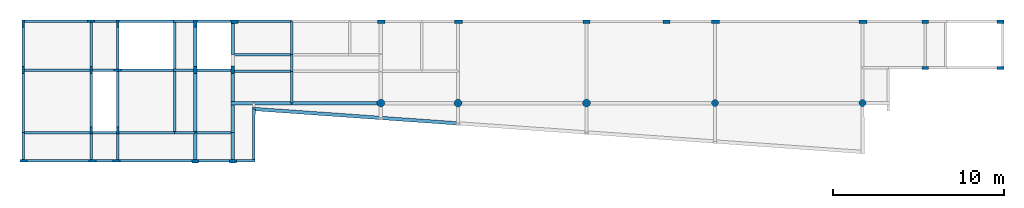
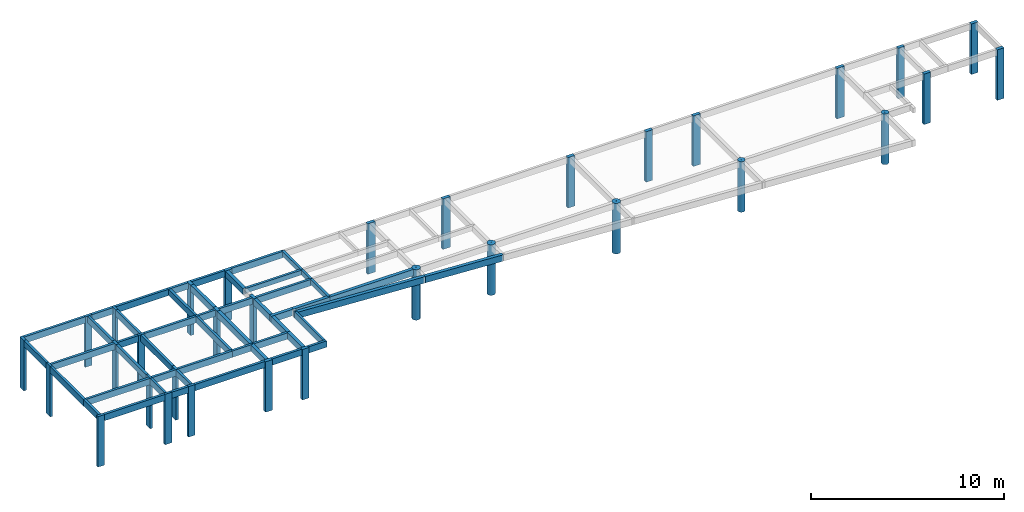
# One storey, part 1 of 3: 50 beams, 32 columns.
"""IFC2X3 building model written with IfcOpenShell, lengths in centimetres."""

from ifc_helpers import new_model, si_unit, derived_unit, frame, origin, origin_with_axes, origin_2d_with_axis, place, context, project, spatial, rectangle, hollow_circle, extrude, clip, halfspace, material, element, save


model = new_model("IFC2X3")

# Units and contexts
model_context = context("Model", 3, precision=1e-05, world=origin_with_axes(), identifier="Body")
ifc_project = project(units=[si_unit("LENGTHUNIT", "METRE", prefix="CENTI"), si_unit("VOLUMEUNIT", "CUBIC_METRE"), si_unit("AREAUNIT", "SQUARE_METRE"), si_unit("POWERUNIT", "WATT"), si_unit("LUMINOUSFLUXUNIT", "LUMEN"), si_unit("ELECTRICCURRENTUNIT", "AMPERE"), si_unit("PRESSUREUNIT", "PASCAL", prefix="KILO"), si_unit("MASSUNIT", "GRAM", prefix="KILO"), si_unit("PLANEANGLEUNIT", "RADIAN"), derived_unit("VOLUMETRICFLOWRATEUNIT", [(si_unit("LENGTHUNIT", "METRE"), 3), (si_unit("TIMEUNIT", "SECOND"), -1)])], contexts=[model_context])

# Site, building, storey
site_placement = place(None, origin_with_axes())
site = spatial("IfcSite", under=ifc_project, at=site_placement)
building_placement = place(site_placement, origin())
building = spatial("IfcBuilding", under=site, at=building_placement)
placement_1 = place(building_placement, origin_with_axes())
placement_2 = place(placement_1, frame((0.0, 0.0, 80.0), z_axis=(0.0, 0.0, 1.0), x_axis=(1.0, 0.0, 0.0)))
placement_3 = place(placement_2, frame((0.0, 0.0, 320.0), z_axis=(0.0, 0.0, 1.0), x_axis=(1.0, 0.0, 0.0)))
storey_placement = place(placement_3, frame((0.0, 0.0, 320.0), z_axis=(0.0, 0.0, 1.0), x_axis=(1.0, 0.0, 0.0)))
storey = spatial("IfcBuildingStorey", under=building, at=storey_placement, Name="04. Cobertura", CompositionType="ELEMENT", Elevation=720.0)

# Columns
ifc_material = material(Name="Concreto")
for number, where, z_axis, x_axis, name in (
    (1, (1838.54, -284.11, 0.0), (0.0, 0.0, 1.0), (1.0, 0.0, 0.0), "P10"),
    (2, (2305.54, -284.11, 0.0), (0.0, 0.0, 1.0), (1.0, 0.0, 0.0), "P11"),
):
    element("IfcColumn", number, at=place(storey_placement, frame(where, z_axis=z_axis, x_axis=x_axis)), inside=storey, material=ifc_material, Name=name, context=model_context, shape_type="SolidModel", body=[
        extrude(rectangle(XDim=20.0, YDim=40.0, at=origin_2d_with_axis()), frame((0.0, 0.0, 0.0), z_axis=(0.0, 0.0, 1.0), x_axis=(0.0, -1.0, 0.0)), (0.0, 0.0, -1.0), 320.0),
    ])
for number, where, z_axis, x_axis, name in (
    (3, (2591.04, -284.11, 0.0), (0.0, 0.0, 1.0), (1.0, 0.0, 0.0), "P12"),
    (4, (3452.04, -284.11, 0.0), (0.0, 0.0, 1.0), (1.0, 0.0, 0.0), "P13"),
):
    element("IfcColumn", number, at=place(storey_placement, frame(where, z_axis=z_axis, x_axis=x_axis)), inside=storey, material=ifc_material, Name=name, context=model_context, shape_type="SolidModel", body=[
        extrude(rectangle(XDim=20.0, YDim=45.0, at=origin_2d_with_axis()), frame((0.0, 0.0, 0.0), z_axis=(0.0, 0.0, 1.0), x_axis=(0.0, -1.0, 0.0)), (0.0, 0.0, -1.0), 320.0),
    ])
for number, where, z_axis, x_axis, name in (
    (5, (3816.04, -284.11, 0.0), (0.0, 0.0, 1.0), (1.0, 0.0, 0.0), "P14"),
    (6, (4255.54, -284.11, 0.0), (0.0, 0.0, 1.0), (1.0, 0.0, 0.0), "P15"),
):
    element("IfcColumn", number, at=place(storey_placement, frame(where, z_axis=z_axis, x_axis=x_axis)), inside=storey, material=ifc_material, Name=name, context=model_context, shape_type="SolidModel", body=[
        extrude(rectangle(XDim=20.0, YDim=40.0, at=origin_2d_with_axis()), frame((0.0, 0.0, 0.0), z_axis=(0.0, 0.0, 1.0), x_axis=(0.0, -1.0, 0.0)), (0.0, 0.0, -1.0), 320.0),
    ])
column_1_placement = place(storey_placement, frame((-1447.96, -566.61, 0.0), z_axis=(0.0, 0.0, 1.0), x_axis=(1.0, 0.0, 0.0)))
element("IfcColumn", 7, at=column_1_placement, inside=storey, material=ifc_material, Name="P17", context=model_context, shape_type="SolidModel", body=[
    extrude(rectangle(XDim=15.0, YDim=40.0, at=origin_2d_with_axis()), origin_with_axes(), (0.0, 0.0, -1.0), 320.0),
])
column_2_placement = place(storey_placement, frame((-1052.96, -566.61, 0.0), z_axis=(0.0, 0.0, 1.0), x_axis=(1.0, 0.0, 0.0)))
element("IfcColumn", 8, at=column_2_placement, inside=storey, material=ifc_material, Name="P18", context=model_context, shape_type="SolidModel", body=[
    extrude(rectangle(XDim=15.0, YDim=40.0, at=origin_2d_with_axis()), frame((0.0, 0.0, 0.0), z_axis=(0.0, 0.0, 1.0), x_axis=(-1.0, 0.0, 0.0)), (0.0, 0.0, -1.0), 320.0),
])
column_3_placement = place(storey_placement, frame((-897.96, -566.61, 0.0), z_axis=(0.0, 0.0, 1.0), x_axis=(1.0, 0.0, 0.0)))
element("IfcColumn", 9, at=column_3_placement, inside=storey, material=ifc_material, Name="P19", context=model_context, shape_type="SolidModel", body=[
    extrude(rectangle(XDim=15.0, YDim=40.0, at=origin_2d_with_axis()), frame((0.0, 0.0, 0.0), z_axis=(0.0, 0.0, 1.0), x_axis=(0.0, -1.0, 0.0)), (0.0, 0.0, -1.0), 320.0),
])
column_4_placement = place(storey_placement, frame((-1447.96, -294.11, 0.0), z_axis=(0.0, 0.0, 1.0), x_axis=(1.0, 0.0, 0.0)))
element("IfcColumn", 10, at=column_4_placement, inside=storey, material=ifc_material, Name="P2", context=model_context, shape_type="SolidModel", body=[
    extrude(rectangle(XDim=15.0, YDim=40.0, at=origin_2d_with_axis()), origin_with_axes(), (0.0, 0.0, -1.0), 320.0),
])
column_5_placement = place(storey_placement, frame((-445.46, -566.61, 0.0), z_axis=(0.0, 0.0, 1.0), x_axis=(1.0, 0.0, 0.0)))
element("IfcColumn", 11, at=column_5_placement, inside=storey, material=ifc_material, Name="P20", context=model_context, shape_type="SolidModel", body=[
    extrude(rectangle(XDim=20.0, YDim=40.0, at=origin_2d_with_axis()), origin_with_axes(), (0.0, 0.0, -1.0), 320.0),
])
column_6_placement = place(storey_placement, frame((-225.46, -564.11, 0.0), z_axis=(0.0, 0.0, 1.0), x_axis=(1.0, 0.0, 0.0)))
element("IfcColumn", 12, at=column_6_placement, inside=storey, material=ifc_material, Name="P21", context=model_context, shape_type="SolidModel", body=[
    extrude(rectangle(XDim=20.0, YDim=45.0, at=origin_2d_with_axis()), origin_with_axes(), (0.0, 0.0, -1.0), 320.0),
])
for number, where, z_axis, x_axis, name in (
    (13, (3816.04, -554.11, 0.0), (0.0, 0.0, 1.0), (1.0, 0.0, 0.0), "P22"),
    (14, (4255.54, -554.11, 0.0), (0.0, 0.0, 1.0), (1.0, 0.0, 0.0), "P23"),
):
    element("IfcColumn", number, at=place(storey_placement, frame(where, z_axis=z_axis, x_axis=x_axis)), inside=storey, material=ifc_material, Name=name, context=model_context, shape_type="SolidModel", body=[
        extrude(rectangle(XDim=20.0, YDim=40.0, at=origin_2d_with_axis()), frame((0.0, 0.0, 0.0), z_axis=(0.0, 0.0, 1.0), x_axis=(0.0, -1.0, 0.0)), (0.0, 0.0, -1.0), 320.0),
    ])
for number, where, z_axis, x_axis, name in (
    (15, (638.67, -758.96, 0.0), (0.0, 0.0, 1.0), (1.0, 0.0, 0.0), "P28"),
    (16, (1088.67, -758.96, 0.0), (0.0, 0.0, 1.0), (1.0, 0.0, 0.0), "P29"),
):
    element("IfcColumn", number, at=place(storey_placement, frame(where, z_axis=z_axis, x_axis=x_axis)), inside=storey, material=ifc_material, Name=name, context=model_context, shape_type="SolidModel", body=[
        extrude(hollow_circle(Radius=22.5, WallThickness=20.0, at=origin_2d_with_axis()), origin_with_axes(), (0.0, 0.0, -1.0), 320.0),
    ])
column_7_placement = place(storey_placement, frame((-1052.96, -282.08, 0.0), z_axis=(0.0, 0.0, 1.0), x_axis=(1.0, 0.0, 0.0)))
element("IfcColumn", 17, at=column_7_placement, inside=storey, material=ifc_material, Name="P3", context=model_context, shape_type="SolidModel", body=[
    extrude(rectangle(XDim=15.0, YDim=40.0, at=origin_2d_with_axis()), frame((0.0, 0.0, 0.0), z_axis=(0.0, 0.0, 1.0), x_axis=(0.0, -1.0, 0.0)), (0.0, 0.0, -1.0), 320.0),
])
column_8_placement = place(storey_placement, frame((1838.67, -758.96, 0.0), z_axis=(0.0, 0.0, 1.0), x_axis=(1.0, 0.0, 0.0)))
element("IfcColumn", 18, at=column_8_placement, inside=storey, material=ifc_material, Name="P30", context=model_context, shape_type="SolidModel", body=[
    extrude(hollow_circle(Radius=22.5, WallThickness=20.0, at=origin_2d_with_axis()), origin_with_axes(), (0.0, 0.0, -1.0), 320.0),
])
for number, where, z_axis, x_axis, name in (
    (19, (2588.67, -758.96, 0.0), (0.0, 0.0, 1.0), (1.0, 0.0, 0.0), "P31"),
    (20, (3449.67, -758.96, 0.0), (0.0, 0.0, 1.0), (1.0, 0.0, 0.0), "P32"),
):
    element("IfcColumn", number, at=place(storey_placement, frame(where, z_axis=z_axis, x_axis=x_axis)), inside=storey, material=ifc_material, Name=name, context=model_context, shape_type="SolidModel", body=[
        extrude(hollow_circle(Radius=20.0, WallThickness=17.5, at=origin_2d_with_axis()), origin_with_axes(), (0.0, 0.0, -1.0), 320.0),
    ])
column_9_placement = place(storey_placement, frame((-1052.96, -919.11, 0.0), z_axis=(0.0, 0.0, 1.0), x_axis=(1.0, 0.0, 0.0)))
element("IfcColumn", 21, at=column_9_placement, inside=storey, material=ifc_material, Name="P33", context=model_context, shape_type="SolidModel", body=[
    extrude(rectangle(XDim=15.0, YDim=40.0, at=origin_2d_with_axis()), frame((0.0, 0.0, 0.0), z_axis=(0.0, 0.0, 1.0), x_axis=(-1.0, 0.0, 0.0)), (0.0, 0.0, -1.0), 320.0),
])
column_10_placement = place(storey_placement, frame((-897.96, -919.11, 0.0), z_axis=(0.0, 0.0, 1.0), x_axis=(1.0, 0.0, 0.0)))
element("IfcColumn", 22, at=column_10_placement, inside=storey, material=ifc_material, Name="P34", context=model_context, shape_type="SolidModel", body=[
    extrude(rectangle(XDim=15.0, YDim=40.0, at=origin_2d_with_axis()), origin_with_axes(), (0.0, 0.0, -1.0), 320.0),
])
for number, where, z_axis, x_axis, name in (
    (23, (-1447.96, -1096.61, 0.0), (0.0, 0.0, 1.0), (1.0, 0.0, 0.0), "P36"),
    (24, (-1044.96, -1096.6, 0.0), (0.0, 0.0, 1.0), (1.0, 0.0, 0.0), "P37"),
    (25, (-904.46, -1096.6, 0.0), (0.0, 0.0, 1.0), (1.0, 0.0, 0.0), "P38"),
):
    element("IfcColumn", number, at=place(storey_placement, frame(where, z_axis=z_axis, x_axis=x_axis)), inside=storey, material=ifc_material, Name=name, context=model_context, shape_type="SolidModel", body=[
        extrude(rectangle(XDim=15.0, YDim=40.0, at=origin_2d_with_axis()), frame((0.0, 0.0, 0.0), z_axis=(0.0, 0.0, 1.0), x_axis=(0.0, -1.0, 0.0)), (0.0, 0.0, -1.0), 320.0),
    ])
column_11_placement = place(storey_placement, frame((-445.46, -1099.1, 0.0), z_axis=(0.0, 0.0, 1.0), x_axis=(1.0, 0.0, 0.0)))
element("IfcColumn", 26, at=column_11_placement, inside=storey, material=ifc_material, Name="P39", context=model_context, shape_type="SolidModel", body=[
    extrude(rectangle(XDim=20.0, YDim=40.0, at=origin_2d_with_axis()), frame((0.0, 0.0, 0.0), z_axis=(0.0, 0.0, 1.0), x_axis=(0.0, -1.0, 0.0)), (0.0, 0.0, -1.0), 320.0),
])
column_12_placement = place(storey_placement, frame((-897.96, -294.11, 0.0), z_axis=(0.0, 0.0, 1.0), x_axis=(1.0, 0.0, 0.0)))
element("IfcColumn", 27, at=column_12_placement, inside=storey, material=ifc_material, Name="P4", context=model_context, shape_type="SolidModel", body=[
    extrude(rectangle(XDim=15.0, YDim=40.0, at=origin_2d_with_axis()), origin_with_axes(), (0.0, 0.0, -1.0), 320.0),
])
column_13_placement = place(storey_placement, frame((-225.46, -1099.1, 0.0), z_axis=(0.0, 0.0, 1.0), x_axis=(1.0, 0.0, 0.0)))
element("IfcColumn", 28, at=column_13_placement, inside=storey, material=ifc_material, Name="P40", context=model_context, shape_type="SolidModel", body=[
    extrude(rectangle(XDim=20.0, YDim=40.0, at=origin_2d_with_axis()), frame((0.0, 0.0, 0.0), z_axis=(0.0, 0.0, 1.0), x_axis=(0.0, -1.0, 0.0)), (0.0, 0.0, -1.0), 320.0),
])
column_14_placement = place(storey_placement, frame((-445.46, -294.11, 0.0), z_axis=(0.0, 0.0, 1.0), x_axis=(1.0, 0.0, 0.0)))
element("IfcColumn", 29, at=column_14_placement, inside=storey, material=ifc_material, Name="P5", context=model_context, shape_type="SolidModel", body=[
    extrude(rectangle(XDim=20.0, YDim=40.0, at=origin_2d_with_axis()), origin_with_axes(), (0.0, 0.0, -1.0), 320.0),
])
column_15_placement = place(storey_placement, frame((-215.46, -284.11, 0.0), z_axis=(0.0, 0.0, 1.0), x_axis=(1.0, 0.0, 0.0)))
element("IfcColumn", 30, at=column_15_placement, inside=storey, material=ifc_material, Name="P6", context=model_context, shape_type="SolidModel", body=[
    extrude(rectangle(XDim=20.0, YDim=40.0, at=origin_2d_with_axis()), frame((0.0, 0.0, 0.0), z_axis=(0.0, 0.0, 1.0), x_axis=(0.0, -1.0, 0.0)), (0.0, 0.0, -1.0), 320.0),
])
for number, where, z_axis, x_axis, name in (
    (31, (641.04, -284.11, 0.0), (0.0, 0.0, 1.0), (1.0, 0.0, 0.0), "P8"),
    (32, (1091.04, -284.11, 0.0), (0.0, 0.0, 1.0), (1.0, 0.0, 0.0), "P9"),
):
    element("IfcColumn", number, at=place(storey_placement, frame(where, z_axis=z_axis, x_axis=x_axis)), inside=storey, material=ifc_material, Name=name, context=model_context, shape_type="SolidModel", body=[
        extrude(rectangle(XDim=20.0, YDim=45.0, at=origin_2d_with_axis()), frame((0.0, 0.0, 0.0), z_axis=(0.0, 0.0, 1.0), x_axis=(0.0, -1.0, 0.0)), (0.0, 0.0, -1.0), 320.0),
    ])

# Beams
beam_1_placement = place(storey_placement, frame((-979.21, -281.61, 0.0), z_axis=(0.0, 0.0, 1.0), x_axis=(1.0, 0.0, 0.0)))
element("IfcBeam", 33, at=beam_1_placement, inside=storey, material=ifc_material, Name="V1", context=model_context, shape_type="SolidModel", body=[
    extrude(rectangle(XDim=15.0, YDim=40.0, at=origin_2d_with_axis()), frame((-73.75, 0.0, -20.0), z_axis=(1.0, 0.0, 0.0), x_axis=(0.0, -1.0, 0.0)), (0.0, 0.0, 1.0), 147.5),
])
beam_2_placement = place(storey_placement, frame((-335.46, -281.61, 0.0), z_axis=(0.0, 0.0, 1.0), x_axis=(1.0, 0.0, 0.0)))
element("IfcBeam", 34, at=beam_2_placement, inside=storey, material=ifc_material, Name="V1", context=model_context, shape_type="SolidModel", body=[
    extrude(rectangle(XDim=15.0, YDim=40.0, at=origin_2d_with_axis()), frame((-100.0, 0.0, -20.0), z_axis=(1.0, 0.0, 0.0), x_axis=(0.0, -1.0, 0.0)), (0.0, 0.0, 1.0), 200.0),
])
beam_3_placement = place(storey_placement, frame((-39.21, -281.61, 0.0), z_axis=(0.0, 0.0, 1.0), x_axis=(1.0, 0.0, 0.0)))
element("IfcBeam", 35, at=beam_3_placement, inside=storey, material=ifc_material, Name="V1", context=model_context, shape_type="SolidModel", body=[
    extrude(rectangle(XDim=15.0, YDim=40.0, at=origin_2d_with_axis()), frame((-156.25, 0.0, -20.0), z_axis=(1.0, 0.0, 0.0), x_axis=(0.0, -1.0, 0.0)), (0.0, 0.0, 1.0), 312.5),
])
beam_4_placement = place(storey_placement, frame((-514.21, -281.61, 0.0), z_axis=(0.0, 0.0, 1.0), x_axis=(1.0, 0.0, 0.0)))
element("IfcBeam", 36, at=beam_4_placement, inside=storey, material=ifc_material, Name="V1", context=model_context, shape_type="SolidModel", body=[
    extrude(rectangle(XDim=15.0, YDim=40.0, at=origin_2d_with_axis()), frame((-58.75, 0.0, -20.0), z_axis=(1.0, 0.0, 0.0), x_axis=(0.0, -1.0, 0.0)), (0.0, 0.0, 1.0), 117.5),
])
beam_5_placement = place(storey_placement, frame((-727.96, -281.61, 0.0), z_axis=(0.0, 0.0, 1.0), x_axis=(1.0, 0.0, 0.0)))
element("IfcBeam", 37, at=beam_5_placement, inside=storey, material=ifc_material, Name="V1", context=model_context, shape_type="SolidModel", body=[
    extrude(rectangle(XDim=15.0, YDim=40.0, at=origin_2d_with_axis()), frame((-162.5, 0.0, -20.0), z_axis=(1.0, 0.0, 0.0), x_axis=(0.0, -1.0, 0.0)), (0.0, 0.0, 1.0), 325.0),
])
beam_6_placement = place(storey_placement, frame((-1246.71, -281.61, 0.0), z_axis=(0.0, 0.0, 1.0), x_axis=(1.0, 0.0, 0.0)))
element("IfcBeam", 38, at=beam_6_placement, inside=storey, material=ifc_material, Name="V1", context=model_context, shape_type="SolidModel", body=[
    extrude(rectangle(XDim=15.0, YDim=40.0, at=origin_2d_with_axis()), frame((-193.75, 0.0, -20.0), z_axis=(1.0, 0.0, 0.0), x_axis=(0.0, -1.0, 0.0)), (0.0, 0.0, 1.0), 387.5),
])
beam_7_placement = place(storey_placement, frame((367.77717781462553, -758.96, 0.0), z_axis=(0.0, 0.0, 1.0), x_axis=(1.0, 0.0, 0.0)))
element("IfcBeam", 39, at=beam_7_placement, inside=storey, material=ifc_material, Name="V10", context=model_context, shape_type="SolidModel", body=[
    extrude(rectangle(XDim=20.0, YDim=40.0, at=origin_2d_with_axis()), frame((-250.7371778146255, 0.0, -20.0), z_axis=(1.0, 0.0, 0.0), x_axis=(0.0, -1.0, 0.0)), (0.0, 0.0, 1.0), 501.4743556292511),
])
beam_8_placement = place(storey_placement, frame((-169.21, -758.96, 0.0), z_axis=(0.0, 0.0, 1.0), x_axis=(1.0, 0.0, 0.0)))
element("IfcBeam", 40, at=beam_8_placement, inside=storey, material=ifc_material, Name="V10", context=model_context, shape_type="SolidModel", body=[
    extrude(rectangle(XDim=20.0, YDim=40.0, at=origin_2d_with_axis()), frame((-66.25, 0.0, -20.0), z_axis=(1.0, 0.0, 0.0), x_axis=(0.0, -1.0, 0.0)), (0.0, 0.0, 1.0), 132.5),
])
beam_9_placement = place(storey_placement, frame((7.04, -758.96, 0.0), z_axis=(0.0, 0.0, 1.0), x_axis=(1.0, 0.0, 0.0)))
element("IfcBeam", 41, at=beam_9_placement, inside=storey, material=ifc_material, Name="V10", context=model_context, shape_type="SolidModel", body=[
    extrude(rectangle(XDim=20.0, YDim=40.0, at=origin_2d_with_axis()), frame((-110.0, 0.0, -20.0), z_axis=(1.0, 0.0, 0.0), x_axis=(0.0, -1.0, 0.0)), (0.0, 0.0, 1.0), 220.0),
])
beam_10_placement = place(storey_placement, frame((863.67, -861.81, 0.0), z_axis=(0.0, 0.0, 1.0), x_axis=(1.0, 0.0, 0.0)))
element("IfcBeam", 42, at=beam_10_placement, inside=storey, material=ifc_material, Name="V11", context=model_context, shape_type="SolidModel", body=[
    extrude(rectangle(XDim=20.0, YDim=40.0, at=origin_2d_with_axis()), frame((-225.0, 15.89, -20.0), z_axis=(0.997515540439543, -0.070446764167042, 0.0), x_axis=(-0.070446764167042, -0.997515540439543, 0.0)), (0.0, 0.0, 1.0), 451.1207913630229),
])
beam_11_placement = place(storey_placement, frame((264.69963178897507, -819.4627326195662, 0.0), z_axis=(0.0, 0.0, 1.0), x_axis=(1.0, 0.0, 0.0)))
element("IfcBeam", 43, at=beam_11_placement, inside=storey, material=ifc_material, Name="V11", context=model_context, shape_type="Clipping", body=[
    clip(extrude(rectangle(XDim=20.0, YDim=40.0, at=origin_2d_with_axis()), frame((-375.3791394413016, 26.45726738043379, -20.0), z_axis=(0.997516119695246, -0.070438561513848, 0.0), x_axis=(-0.070438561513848, -0.997516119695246, 0.0)), (0.0, 0.0, 1.0), 751.2154368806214), halfspace(frame((-374.67475382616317, 36.43242857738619, 0.0), z_axis=(0.999795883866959, 0.02020372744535, 0.0), x_axis=(0.0, 0.0, -0.09057772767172)), True)),
])
beam_12_placement = place(storey_placement, frame((-975.46, -931.61, 0.0), z_axis=(0.0, 0.0, 1.0), x_axis=(1.0, 0.0, 0.0)))
element("IfcBeam", 44, at=beam_12_placement, inside=storey, material=ifc_material, Name="V17", context=model_context, shape_type="SolidModel", body=[
    extrude(rectangle(XDim=15.0, YDim=40.0, at=origin_2d_with_axis()), frame((-70.0, 0.0, -20.0), z_axis=(1.0, 0.0, 0.0), x_axis=(0.0, -1.0, 0.0)), (0.0, 0.0, 1.0), 140.0),
])
beam_13_placement = place(storey_placement, frame((-1254.21, -931.61, 0.0), z_axis=(0.0, 0.0, 1.0), x_axis=(1.0, 0.0, 0.0)))
element("IfcBeam", 45, at=beam_13_placement, inside=storey, material=ifc_material, Name="V17", context=model_context, shape_type="SolidModel", body=[
    extrude(rectangle(XDim=15.0, YDim=40.0, at=origin_2d_with_axis()), frame((-193.75, 0.0, -20.0), z_axis=(1.0, 0.0, 0.0), x_axis=(0.0, -1.0, 0.0)), (0.0, 0.0, 1.0), 387.5),
])
beam_14_placement = place(storey_placement, frame((-727.96, -931.61, 0.0), z_axis=(0.0, 0.0, 1.0), x_axis=(1.0, 0.0, 0.0)))
element("IfcBeam", 46, at=beam_14_placement, inside=storey, material=ifc_material, Name="V18", context=model_context, shape_type="SolidModel", body=[
    extrude(rectangle(XDim=15.0, YDim=40.0, at=origin_2d_with_axis()), frame((-162.5, 0.0, -20.0), z_axis=(1.0, 0.0, 0.0), x_axis=(0.0, -1.0, 0.0)), (0.0, 0.0, 1.0), 325.0),
])
beam_15_placement = place(storey_placement, frame((-505.46, -931.61, 0.0), z_axis=(0.0, 0.0, 1.0), x_axis=(1.0, 0.0, 0.0)))
element("IfcBeam", 47, at=beam_15_placement, inside=storey, material=ifc_material, Name="V18", context=model_context, shape_type="SolidModel", body=[
    extrude(rectangle(XDim=15.0, YDim=40.0, at=origin_2d_with_axis()), frame((-60.0, 0.0, -20.0), z_axis=(1.0, 0.0, 0.0), x_axis=(0.0, -1.0, 0.0)), (0.0, 0.0, 1.0), 120.0),
])
beam_16_placement = place(storey_placement, frame((-335.46, -931.61, 0.0), z_axis=(0.0, 0.0, 1.0), x_axis=(1.0, 0.0, 0.0)))
element("IfcBeam", 48, at=beam_16_placement, inside=storey, material=ifc_material, Name="V18", context=model_context, shape_type="SolidModel", body=[
    extrude(rectangle(XDim=15.0, YDim=40.0, at=origin_2d_with_axis()), frame((-110.0, 0.0, -20.0), z_axis=(1.0, 0.0, 0.0), x_axis=(0.0, -1.0, 0.0)), (0.0, 0.0, 1.0), 220.0),
])
beam_17_placement = place(storey_placement, frame((-150.45132662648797, -1096.6, 0.0), z_axis=(0.0, 0.0, 1.0), x_axis=(1.0, 0.0, 0.0)))
element("IfcBeam", 49, at=beam_17_placement, inside=storey, material=ifc_material, Name="V19", context=model_context, shape_type="Clipping", body=[
    clip(extrude(rectangle(XDim=15.0, YDim=40.0, at=origin_2d_with_axis()), frame((-55.00867337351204, 0.0, -20.0), z_axis=(1.0, 0.0, 0.0), x_axis=(0.0, -1.0, 0.0)), (0.0, 0.0, 1.0), 110.01734674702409), halfspace(frame((55.00867337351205, 7.5, -40.0), z_axis=(-1.0, 0.00231022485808, 0.0), x_axis=(0.0, 0.0, -0.00231022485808)), True)),
])
beam_18_placement = place(storey_placement, frame((-335.46, -1096.6, 0.0), z_axis=(0.0, 0.0, 1.0), x_axis=(1.0, 0.0, 0.0)))
element("IfcBeam", 50, at=beam_18_placement, inside=storey, material=ifc_material, Name="V19", context=model_context, shape_type="SolidModel", body=[
    extrude(rectangle(XDim=15.0, YDim=40.0, at=origin_2d_with_axis()), frame((-90.0, 0.0, -20.0), z_axis=(1.0, 0.0, 0.0), x_axis=(0.0, -1.0, 0.0)), (0.0, 0.0, 1.0), 180.0),
])
beam_19_placement = place(storey_placement, frame((-1246.46, -1096.6, 0.0), z_axis=(0.0, 0.0, 1.0), x_axis=(1.0, 0.0, 0.0)))
element("IfcBeam", 51, at=beam_19_placement, inside=storey, material=ifc_material, Name="V19", context=model_context, shape_type="SolidModel", body=[
    extrude(rectangle(XDim=15.0, YDim=40.0, at=origin_2d_with_axis()), frame((-181.5, 0.0, -20.0), z_axis=(1.0, 0.0, 0.0), x_axis=(0.0, -1.0, 0.0)), (0.0, 0.0, 1.0), 363.0),
])
beam_20_placement = place(storey_placement, frame((-674.96, -1096.6, 0.0), z_axis=(0.0, 0.0, 1.0), x_axis=(1.0, 0.0, 0.0)))
element("IfcBeam", 52, at=beam_20_placement, inside=storey, material=ifc_material, Name="V19", context=model_context, shape_type="SolidModel", body=[
    extrude(rectangle(XDim=15.0, YDim=40.0, at=origin_2d_with_axis()), frame((-209.5, 0.0, -20.0), z_axis=(1.0, 0.0, 0.0), x_axis=(0.0, -1.0, 0.0)), (0.0, 0.0, 1.0), 419.0),
])
beam_21_placement = place(storey_placement, frame((-974.71, -1096.6, 0.0), z_axis=(0.0, 0.0, 1.0), x_axis=(1.0, 0.0, 0.0)))
element("IfcBeam", 53, at=beam_21_placement, inside=storey, material=ifc_material, Name="V19", context=model_context, shape_type="SolidModel", body=[
    extrude(rectangle(XDim=15.0, YDim=40.0, at=origin_2d_with_axis()), frame((-50.25, 0.0, -20.0), z_axis=(1.0, 0.0, 0.0), x_axis=(0.0, -1.0, 0.0)), (0.0, 0.0, 1.0), 100.5),
])
beam_22_placement = place(storey_placement, frame((-1447.96, -1010.36, 0.0), z_axis=(0.0, 0.0, 1.0), x_axis=(1.0, 0.0, 0.0)))
element("IfcBeam", 54, at=beam_22_placement, inside=storey, material=ifc_material, Name="V20", context=model_context, shape_type="SolidModel", body=[
    extrude(rectangle(XDim=15.0, YDim=40.0, at=origin_2d_with_axis()), frame((0.0, -78.75, -20.0), z_axis=(0.0, 1.0, 0.0), x_axis=(-1.0, 0.0, 0.0)), (0.0, 0.0, 1.0), 157.5),
])
beam_23_placement = place(storey_placement, frame((-1447.96, -759.11, 0.0), z_axis=(0.0, 0.0, 1.0), x_axis=(1.0, 0.0, 0.0)))
element("IfcBeam", 55, at=beam_23_placement, inside=storey, material=ifc_material, Name="V20", context=model_context, shape_type="SolidModel", body=[
    extrude(rectangle(XDim=15.0, YDim=40.0, at=origin_2d_with_axis()), frame((0.0, -172.5, -20.0), z_axis=(0.0, 1.0, 0.0), x_axis=(-1.0, 0.0, 0.0)), (0.0, 0.0, 1.0), 345.0),
])
beam_24_placement = place(storey_placement, frame((-1447.96, -430.36, 0.0), z_axis=(0.0, 0.0, 1.0), x_axis=(1.0, 0.0, 0.0)))
element("IfcBeam", 56, at=beam_24_placement, inside=storey, material=ifc_material, Name="V20", context=model_context, shape_type="SolidModel", body=[
    extrude(rectangle(XDim=15.0, YDim=40.0, at=origin_2d_with_axis()), frame((0.0, -116.25, -20.0), z_axis=(0.0, 1.0, 0.0), x_axis=(-1.0, 0.0, 0.0)), (0.0, 0.0, 1.0), 232.5),
])
beam_25_placement = place(storey_placement, frame((-1052.96, -742.86, 0.0), z_axis=(0.0, 0.0, 1.0), x_axis=(1.0, 0.0, 0.0)))
element("IfcBeam", 57, at=beam_25_placement, inside=storey, material=ifc_material, Name="V21", context=model_context, shape_type="SolidModel", body=[
    extrude(rectangle(XDim=15.0, YDim=40.0, at=origin_2d_with_axis()), frame((0.0, -156.25, -20.0), z_axis=(0.0, 1.0, 0.0), x_axis=(-1.0, 0.0, 0.0)), (0.0, 0.0, 1.0), 312.5),
])
beam_26_placement = place(storey_placement, frame((-1052.96, -418.095, 0.0), z_axis=(0.0, 0.0, 1.0), x_axis=(1.0, 0.0, 0.0)))
element("IfcBeam", 58, at=beam_26_placement, inside=storey, material=ifc_material, Name="V21", context=model_context, shape_type="SolidModel", body=[
    extrude(rectangle(XDim=15.0, YDim=40.0, at=origin_2d_with_axis()), frame((0.0, -128.515, -20.0), z_axis=(0.0, 1.0, 0.0), x_axis=(-1.0, 0.0, 0.0)), (0.0, 0.0, 1.0), 257.03),
])
beam_27_placement = place(storey_placement, frame((-1052.96, -1014.105, 0.0), z_axis=(0.0, 0.0, 1.0), x_axis=(1.0, 0.0, 0.0)))
element("IfcBeam", 59, at=beam_27_placement, inside=storey, material=ifc_material, Name="V21", context=model_context, shape_type="SolidModel", body=[
    extrude(rectangle(XDim=15.0, YDim=40.0, at=origin_2d_with_axis()), frame((0.0, -74.995, -20.0), z_axis=(0.0, 1.0, 0.0), x_axis=(-1.0, 0.0, 0.0)), (0.0, 0.0, 1.0), 149.99),
])
beam_28_placement = place(storey_placement, frame((-897.96, -436.61, 0.0), z_axis=(0.0, 0.0, 1.0), x_axis=(1.0, 0.0, 0.0)))
element("IfcBeam", 60, at=beam_28_placement, inside=storey, material=ifc_material, Name="V22", context=model_context, shape_type="SolidModel", body=[
    extrude(rectangle(XDim=15.0, YDim=40.0, at=origin_2d_with_axis()), frame((0.0, -122.5, -20.0), z_axis=(0.0, 1.0, 0.0), x_axis=(-1.0, 0.0, 0.0)), (0.0, 0.0, 1.0), 245.0),
])
beam_29_placement = place(storey_placement, frame((-897.96, -1014.105, 0.0), z_axis=(0.0, 0.0, 1.0), x_axis=(1.0, 0.0, 0.0)))
element("IfcBeam", 61, at=beam_29_placement, inside=storey, material=ifc_material, Name="V22", context=model_context, shape_type="SolidModel", body=[
    extrude(rectangle(XDim=15.0, YDim=40.0, at=origin_2d_with_axis()), frame((0.0, -74.995, -20.0), z_axis=(0.0, 1.0, 0.0), x_axis=(-1.0, 0.0, 0.0)), (0.0, 0.0, 1.0), 149.99),
])
beam_30_placement = place(storey_placement, frame((-897.96, -736.61, 0.0), z_axis=(0.0, 0.0, 1.0), x_axis=(1.0, 0.0, 0.0)))
element("IfcBeam", 62, at=beam_30_placement, inside=storey, material=ifc_material, Name="V22", context=model_context, shape_type="SolidModel", body=[
    extrude(rectangle(XDim=15.0, YDim=40.0, at=origin_2d_with_axis()), frame((0.0, -162.5, -20.0), z_axis=(0.0, 1.0, 0.0), x_axis=(-1.0, 0.0, 0.0)), (0.0, 0.0, 1.0), 325.0),
])
beam_31_placement = place(storey_placement, frame((-565.46, -424.11, 0.0), z_axis=(0.0, 0.0, 1.0), x_axis=(1.0, 0.0, 0.0)))
element("IfcBeam", 63, at=beam_31_placement, inside=storey, material=ifc_material, Name="V23", context=model_context, shape_type="SolidModel", body=[
    extrude(rectangle(XDim=15.0, YDim=40.0, at=origin_2d_with_axis()), frame((0.0, -135.0, -20.0), z_axis=(0.0, 1.0, 0.0), x_axis=(-1.0, 0.0, 0.0)), (0.0, 0.0, 1.0), 270.0),
])
beam_32_placement = place(storey_placement, frame((-565.46, -749.11, 0.0), z_axis=(0.0, 0.0, 1.0), x_axis=(1.0, 0.0, 0.0)))
element("IfcBeam", 64, at=beam_32_placement, inside=storey, material=ifc_material, Name="V23", context=model_context, shape_type="SolidModel", body=[
    extrude(rectangle(XDim=15.0, YDim=40.0, at=origin_2d_with_axis()), frame((0.0, -182.5, -20.0), z_axis=(0.0, 1.0, 0.0), x_axis=(1.0, 0.0, 0.0)), (0.0, 0.0, 1.0), 365.0),
])
beam_33_placement = place(storey_placement, frame((-445.46, -430.36, 0.0), z_axis=(0.0, 0.0, 1.0), x_axis=(1.0, 0.0, 0.0)))
element("IfcBeam", 65, at=beam_33_placement, inside=storey, material=ifc_material, Name="V24", context=model_context, shape_type="SolidModel", body=[
    extrude(rectangle(XDim=20.0, YDim=40.0, at=origin_2d_with_axis()), frame((0.0, -116.25, -20.0), z_axis=(0.0, 1.0, 0.0), x_axis=(-1.0, 0.0, 0.0)), (0.0, 0.0, 1.0), 232.5),
])
beam_34_placement = place(storey_placement, frame((-445.46, -1010.355, 0.0), z_axis=(0.0, 0.0, 1.0), x_axis=(1.0, 0.0, 0.0)))
element("IfcBeam", 66, at=beam_34_placement, inside=storey, material=ifc_material, Name="V24", context=model_context, shape_type="SolidModel", body=[
    extrude(rectangle(XDim=20.0, YDim=40.0, at=origin_2d_with_axis()), frame((0.0, -78.745, -20.0), z_axis=(0.0, 1.0, 0.0), x_axis=(1.0, 0.0, 0.0)), (0.0, 0.0, 1.0), 157.49),
])
beam_35_placement = place(storey_placement, frame((-445.46, -759.11, 0.0), z_axis=(0.0, 0.0, 1.0), x_axis=(1.0, 0.0, 0.0)))
element("IfcBeam", 67, at=beam_35_placement, inside=storey, material=ifc_material, Name="V24", context=model_context, shape_type="SolidModel", body=[
    extrude(rectangle(XDim=20.0, YDim=40.0, at=origin_2d_with_axis()), frame((0.0, -172.5, -20.0), z_axis=(0.0, 1.0, 0.0), x_axis=(1.0, 0.0, 0.0)), (0.0, 0.0, 1.0), 345.0),
])
beam_36_placement = place(storey_placement, frame((-225.46, -1010.355, 0.0), z_axis=(0.0, 0.0, 1.0), x_axis=(1.0, 0.0, 0.0)))
element("IfcBeam", 68, at=beam_36_placement, inside=storey, material=ifc_material, Name="V25", context=model_context, shape_type="SolidModel", body=[
    extrude(rectangle(XDim=20.0, YDim=40.0, at=origin_2d_with_axis()), frame((0.0, -78.745, -20.0), z_axis=(0.0, 1.0, 0.0), x_axis=(1.0, 0.0, 0.0)), (0.0, 0.0, 1.0), 157.49),
])
beam_37_placement = place(storey_placement, frame((-225.46, -850.285, 0.0), z_axis=(0.0, 0.0, 1.0), x_axis=(1.0, 0.0, 0.0)))
element("IfcBeam", 69, at=beam_37_placement, inside=storey, material=ifc_material, Name="V25", context=model_context, shape_type="SolidModel", body=[
    extrude(rectangle(XDim=20.0, YDim=40.0, at=origin_2d_with_axis()), frame((0.0, -81.325, -20.0), z_axis=(0.0, 1.0, 0.0), x_axis=(1.0, 0.0, 0.0)), (0.0, 0.0, 1.0), 162.65),
])
beam_38_placement = place(storey_placement, frame((-225.46, -672.785, 0.0), z_axis=(0.0, 0.0, 1.0), x_axis=(1.0, 0.0, 0.0)))
element("IfcBeam", 70, at=beam_38_placement, inside=storey, material=ifc_material, Name="V25", context=model_context, shape_type="SolidModel", body=[
    extrude(rectangle(XDim=20.0, YDim=40.0, at=origin_2d_with_axis()), frame((0.0, -86.175, -20.0), z_axis=(0.0, 1.0, 0.0), x_axis=(1.0, 0.0, 0.0)), (0.0, 0.0, 1.0), 172.35),
])
beam_39_placement = place(storey_placement, frame((-225.46, -385.36, 0.0), z_axis=(0.0, 0.0, 1.0), x_axis=(1.0, 0.0, 0.0)))
element("IfcBeam", 71, at=beam_39_placement, inside=storey, material=ifc_material, Name="V26", context=model_context, shape_type="SolidModel", body=[
    extrude(rectangle(XDim=20.0, YDim=40.0, at=origin_2d_with_axis()), frame((0.0, -91.25, -20.0), z_axis=(0.0, 1.0, 0.0), x_axis=(1.0, 0.0, 0.0)), (0.0, 0.0, 1.0), 182.5),
])
beam_40_placement = place(storey_placement, frame((-102.60135664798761, -941.3413366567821, 0.0), z_axis=(0.0, 0.0, 1.0), x_axis=(1.0, 0.0, 0.0)))
element("IfcBeam", 72, at=beam_40_placement, inside=storey, material=ifc_material, Name="V27", context=model_context, shape_type="Clipping", body=[
    clip(extrude(rectangle(XDim=15.0, YDim=40.0, at=origin_2d_with_axis()), frame((-0.34135664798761, -147.77599002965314, -20.0), z_axis=(0.002310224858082, 1.0, 0.0), x_axis=(1.0, -0.002310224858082, 0.0)), (0.0, 0.0, 1.0), 295.518115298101), halfspace(frame((-7.841336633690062, -147.75866334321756, 0.0), z_axis=(0.0, 1.0, 0.0), x_axis=(0.0, 0.0, -0.002310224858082)), True)),
])
beam_41_placement = place(storey_placement, frame((117.04, -666.535, 0.0), z_axis=(0.0, 0.0, 1.0), x_axis=(1.0, 0.0, 0.0)))
element("IfcBeam", 73, at=beam_41_placement, inside=storey, material=ifc_material, Name="V28", context=model_context, shape_type="SolidModel", body=[
    extrude(rectangle(XDim=15.0, YDim=30.0, at=origin_2d_with_axis()), frame((0.0, -92.425, -15.0), z_axis=(0.0, 1.0, 0.0), x_axis=(1.0, 0.0, 0.0)), (0.0, 0.0, 1.0), 184.85),
])
beam_42_placement = place(storey_placement, frame((117.04, -525.36, 0.0), z_axis=(0.0, 0.0, 1.0), x_axis=(1.0, 0.0, 0.0)))
element("IfcBeam", 74, at=beam_42_placement, inside=storey, material=ifc_material, Name="V28", context=model_context, shape_type="SolidModel", body=[
    extrude(rectangle(XDim=15.0, YDim=30.0, at=origin_2d_with_axis()), frame((0.0, -48.75, -15.0), z_axis=(0.0, 1.0, 0.0), x_axis=(1.0, 0.0, 0.0)), (0.0, 0.0, 1.0), 97.5),
])
beam_43_placement = place(storey_placement, frame((117.04, -379.11, 0.0), z_axis=(0.0, 0.0, 1.0), x_axis=(1.0, 0.0, 0.0)))
element("IfcBeam", 75, at=beam_43_placement, inside=storey, material=ifc_material, Name="V28", context=model_context, shape_type="SolidModel", body=[
    extrude(rectangle(XDim=15.0, YDim=30.0, at=origin_2d_with_axis()), frame((0.0, -97.5, -15.0), z_axis=(0.0, 1.0, 0.0), x_axis=(1.0, 0.0, 0.0)), (0.0, 0.0, 1.0), 195.0),
])
beam_44_placement = place(storey_placement, frame((-54.21, -476.61, 0.0), z_axis=(0.0, 0.0, 1.0), x_axis=(1.0, 0.0, 0.0)))
element("IfcBeam", 76, at=beam_44_placement, inside=storey, material=ifc_material, Name="V4", context=model_context, shape_type="SolidModel", body=[
    extrude(rectangle(XDim=15.0, YDim=30.0, at=origin_2d_with_axis()), frame((-171.25, 0.0, -15.0), z_axis=(1.0, 0.0, 0.0), x_axis=(0.0, -1.0, 0.0)), (0.0, 0.0, 1.0), 342.5),
])
beam_45_placement = place(storey_placement, frame((-721.71, -566.61, 0.0), z_axis=(0.0, 0.0, 1.0), x_axis=(1.0, 0.0, 0.0)))
element("IfcBeam", 77, at=beam_45_placement, inside=storey, material=ifc_material, Name="V5", context=model_context, shape_type="SolidModel", body=[
    extrude(rectangle(XDim=15.0, YDim=40.0, at=origin_2d_with_axis()), frame((-156.25, 0.0, -20.0), z_axis=(1.0, 0.0, 0.0), x_axis=(0.0, -1.0, 0.0)), (0.0, 0.0, 1.0), 312.5),
])
beam_46_placement = place(storey_placement, frame((-981.71, -566.61, 0.0), z_axis=(0.0, 0.0, 1.0), x_axis=(1.0, 0.0, 0.0)))
element("IfcBeam", 78, at=beam_46_placement, inside=storey, material=ifc_material, Name="V5", context=model_context, shape_type="SolidModel", body=[
    extrude(rectangle(XDim=15.0, YDim=40.0, at=origin_2d_with_axis()), frame((-63.75, 0.0, -20.0), z_axis=(1.0, 0.0, 0.0), x_axis=(0.0, -1.0, 0.0)), (0.0, 0.0, 1.0), 127.5),
])
beam_47_placement = place(storey_placement, frame((-514.21, -566.61, 0.0), z_axis=(0.0, 0.0, 1.0), x_axis=(1.0, 0.0, 0.0)))
element("IfcBeam", 79, at=beam_47_placement, inside=storey, material=ifc_material, Name="V5", context=model_context, shape_type="SolidModel", body=[
    extrude(rectangle(XDim=15.0, YDim=40.0, at=origin_2d_with_axis()), frame((-58.75, 0.0, -20.0), z_axis=(1.0, 0.0, 0.0), x_axis=(0.0, -1.0, 0.0)), (0.0, 0.0, 1.0), 117.5),
])
beam_48_placement = place(storey_placement, frame((-335.46, -566.61, 0.0), z_axis=(0.0, 0.0, 1.0), x_axis=(1.0, 0.0, 0.0)))
element("IfcBeam", 80, at=beam_48_placement, inside=storey, material=ifc_material, Name="V5", context=model_context, shape_type="SolidModel", body=[
    extrude(rectangle(XDim=15.0, YDim=40.0, at=origin_2d_with_axis()), frame((-100.0, 0.0, -20.0), z_axis=(1.0, 0.0, 0.0), x_axis=(0.0, -1.0, 0.0)), (0.0, 0.0, 1.0), 200.0),
])
beam_49_placement = place(storey_placement, frame((-1250.46, -566.61, 0.0), z_axis=(0.0, 0.0, 1.0), x_axis=(1.0, 0.0, 0.0)))
element("IfcBeam", 81, at=beam_49_placement, inside=storey, material=ifc_material, Name="V5", context=model_context, shape_type="SolidModel", body=[
    extrude(rectangle(XDim=15.0, YDim=40.0, at=origin_2d_with_axis()), frame((-190.0, 0.0, -20.0), z_axis=(1.0, 0.0, 0.0), x_axis=(0.0, -1.0, 0.0)), (0.0, 0.0, 1.0), 380.0),
])
beam_50_placement = place(storey_placement, frame((-49.21, -574.11, 0.0), z_axis=(0.0, 0.0, 1.0), x_axis=(1.0, 0.0, 0.0)))
element("IfcBeam", 82, at=beam_50_placement, inside=storey, material=ifc_material, Name="V6", context=model_context, shape_type="SolidModel", body=[
    extrude(rectangle(XDim=15.0, YDim=40.0, at=origin_2d_with_axis()), frame((-166.25, 0.0, -20.0), z_axis=(1.0, 0.0, 0.0), x_axis=(0.0, -1.0, 0.0)), (0.0, 0.0, 1.0), 332.5),
])

save(model, "model.ifc")
